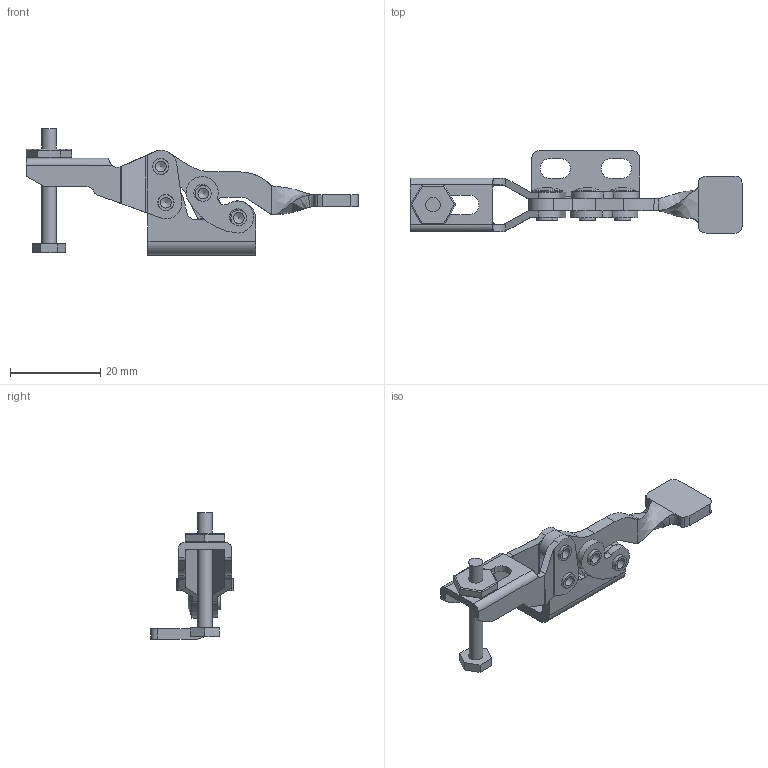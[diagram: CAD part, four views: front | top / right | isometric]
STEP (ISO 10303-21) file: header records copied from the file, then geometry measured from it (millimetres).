
FILE_DESCRIPTION(/* description */ (''),/* implementation_level */ '2;1');
FILE_NAME(/* name */ 'hr-101',/* time_stamp */ '2004-12-16T11:13:34-05:00',/* author */ (''),/* organization */ (''),/* preprocessor_version */ 'ST-DEVELOPER v9',/* originating_system */ 'EDS PLM SOLUTIONS - UNIGRAPHICS NX 2.0',/* authorisation */ '');
FILE_SCHEMA (('AUTOMOTIVE_DESIGN { 1 0 10303 214 0 1 1 1 }'));
Length unit declared in the file: inch
Products named in the file (1): mfurAEE3tobf
Bounding box: 73.48 x 18.35 x 27.94 mm (x, y, z)
Volume: 3836.6 mm3; surface area: 5642.9 mm2
Topology: 11 solids, 11 shells, 216 faces, 538 edges, 352 vertices
Faces by surface type: plane 95, cylinder 95, bspline 10, torus 8, sphere 4, cone 4
Full cylindrical faces by diameter (mm): 2.381 x4, 3.175 x2, 3.48 x4, 3.581 x2, 3.632 x10
Entity records: 7178 total; most frequent: CARTESIAN_POINT 1985, DIRECTION 1063, ORIENTED_EDGE 994, EDGE_CURVE 497, AXIS2_PLACEMENT_3D 400, VERTEX_POINT 346, EDGE_LOOP 291, LINE 263
